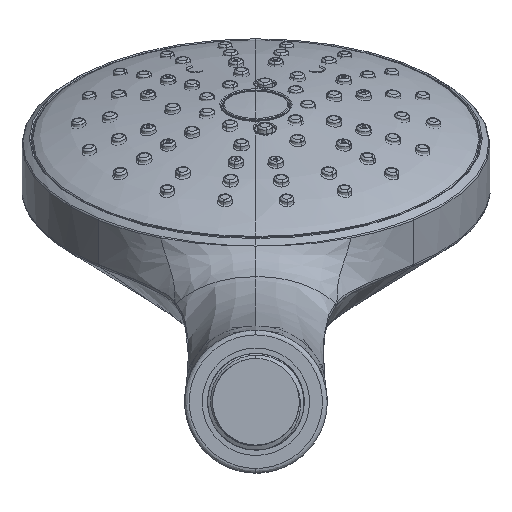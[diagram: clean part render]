
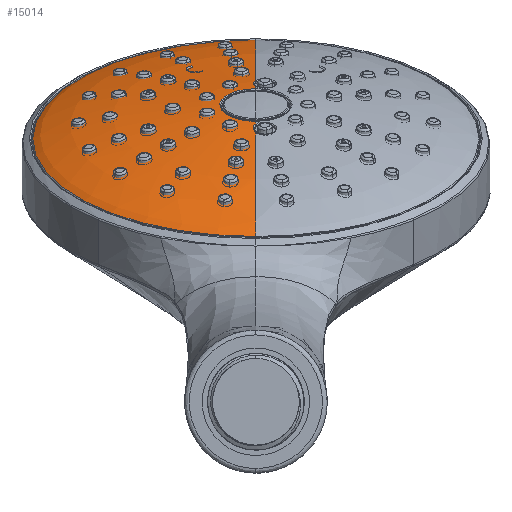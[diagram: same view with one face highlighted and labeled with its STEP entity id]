
A CAD part, front view. The second image highlights one B-rep face of the part: STEP entity #15014.
In plain terms, the highlighted face is a revolution surface.
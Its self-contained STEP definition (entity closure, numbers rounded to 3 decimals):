
#6871=CARTESIAN_POINT('',(0.,171.03,56.138));
#6872=DIRECTION('',(0.,0.438,-0.899));
#6873=DIRECTION('',(0.,-0.899,-0.438));
#6874=AXIS2_PLACEMENT_3D('',#6871,#6872,#6873);
#6876=CARTESIAN_POINT('',(0.,171.03,56.138));
#6877=DIRECTION('',(0.,0.438,-0.899));
#6878=DIRECTION('',(-0.006,-0.899,-0.438));
#6879=AXIS2_PLACEMENT_3D('',#6876,#6877,#6878);
#6881=CARTESIAN_POINT('',(0.,167.496,63.383));
#6882=DIRECTION('',(0.,-0.438,0.899));
#6883=DIRECTION('',(0.,0.899,0.438));
#6884=AXIS2_PLACEMENT_3D('',#6881,#6882,#6883);
#6886=CARTESIAN_POINT('',(0.,167.496,63.383));
#6887=DIRECTION('',(0.,-0.438,0.899));
#6888=DIRECTION('',(-0.007,0.899,0.438));
#6889=AXIS2_PLACEMENT_3D('',#6886,#6887,#6888);
#6891=CARTESIAN_POINT('',(0.,160.564,
60.002));
#6892=CARTESIAN_POINT('',(0.,160.109,
59.741));
#6893=CARTESIAN_POINT('',(0.,159.65,
59.476));
#6894=CARTESIAN_POINT('',(0.,159.188,
59.206));
#6896=CARTESIAN_POINT('',(0.,159.188,
59.206));
#6897=CARTESIAN_POINT('',(-0.026,159.161,
59.19));
#6898=CARTESIAN_POINT('',(-0.077,159.106,
59.157));
#6899=CARTESIAN_POINT('',(-0.148,159.02,
59.107));
#6900=CARTESIAN_POINT('',(-0.192,158.961,
59.072));
#6901=CARTESIAN_POINT('',(-0.214,158.931,
59.054));
#6903=CARTESIAN_POINT('',(-0.214,158.931,
59.054));
#6904=CARTESIAN_POINT('',(-0.306,158.797,
58.975));
#6905=CARTESIAN_POINT('',(-0.461,158.52,
58.812));
#6906=CARTESIAN_POINT('',(-0.583,158.065,
58.541));
#6907=CARTESIAN_POINT('',(-0.591,157.594,
58.26));
#6908=CARTESIAN_POINT('',(-0.476,157.121,
57.976));
#6909=CARTESIAN_POINT('',(-0.317,156.823,
57.797));
#6910=CARTESIAN_POINT('',(-0.214,156.678,
57.709));
#6912=CARTESIAN_POINT('',(0.,156.423,
57.554));
#6913=CARTESIAN_POINT('',(0.,144.103,
50.05));
#6914=CARTESIAN_POINT('',(0.,130.616,
39.938));
#6915=CARTESIAN_POINT('',(0.,128.246,
35.271));
#6982=CARTESIAN_POINT('',(0.,174.429,
66.764));
#6983=CARTESIAN_POINT('',(0.,174.914,
66.962));
#6984=CARTESIAN_POINT('',(0.,175.406,
67.16));
#6985=CARTESIAN_POINT('',(0.,175.903,
67.358));
#7010=CARTESIAN_POINT('',(0.,178.907,
68.52));
#7011=CARTESIAN_POINT('',(0.,192.406,
73.609));
#7012=CARTESIAN_POINT('',(0.,208.677,
78.011));
#7013=CARTESIAN_POINT('',(0.,213.814,
77.005));
#13183=CARTESIAN_POINT('',(0.,156.423,
57.554));
#13184=CARTESIAN_POINT('',(-0.026,156.45,
57.57));
#13185=CARTESIAN_POINT('',(-0.077,156.505,
57.603));
#13186=CARTESIAN_POINT('',(-0.148,156.59,
57.655));
#13187=CARTESIAN_POINT('',(-0.192,156.648,
57.691));
#13188=CARTESIAN_POINT('',(-0.214,156.678,
57.709));
#13439=CARTESIAN_POINT('',(-0.214,178.628,
68.414));
#13440=CARTESIAN_POINT('',(-0.192,178.66,
68.427));
#13441=CARTESIAN_POINT('',(-0.148,178.725,
68.451));
#13442=CARTESIAN_POINT('',(-0.077,178.818,
68.486));
#13443=CARTESIAN_POINT('',(-0.026,178.878,
68.509));
#13444=CARTESIAN_POINT('',(0.,178.907,
68.52));
#13469=CARTESIAN_POINT('',(-0.214,176.181,
67.468));
#13470=CARTESIAN_POINT('',(-0.334,176.363,67.54));
#13471=CARTESIAN_POINT('',(-0.519,176.76,
67.695));
#13472=CARTESIAN_POINT('',(-0.614,177.404,
67.945));
#13473=CARTESIAN_POINT('',(-0.519,178.047,
68.193));
#13474=CARTESIAN_POINT('',(-0.333,178.445,
68.345));
#13475=CARTESIAN_POINT('',(-0.214,178.628,
68.414));
#13491=CARTESIAN_POINT('',(0.,175.903,
67.358));
#13492=CARTESIAN_POINT('',(-0.026,175.932,
67.369));
#13493=CARTESIAN_POINT('',(-0.077,175.992,
67.393));
#13494=CARTESIAN_POINT('',(-0.148,176.084,
67.43));
#13495=CARTESIAN_POINT('',(-0.192,176.148,
67.455));
#13496=CARTESIAN_POINT('',(-0.214,176.181,
67.468));
#13772=CARTESIAN_POINT('',(-0.296,128.247,
35.272));
#13773=CARTESIAN_POINT('',(0.,213.814,
77.005));
#13774=VERTEX_POINT('',#13772);
#13775=VERTEX_POINT('',#13773);
#13776=CARTESIAN_POINT('',(0.,128.246,
35.271));
#13777=VERTEX_POINT('',#13776);
#13778=VERTEX_POINT('',#7010);
#13779=VERTEX_POINT('',#13439);
#13780=VERTEX_POINT('',#13469);
#13781=VERTEX_POINT('',#13491);
#13782=VERTEX_POINT('',#6982);
#13783=CARTESIAN_POINT('',(-0.056,174.429,
66.764));
#13784=CARTESIAN_POINT('',(0.,160.564,
60.002));
#13785=VERTEX_POINT('',#13783);
#13786=VERTEX_POINT('',#13784);
#13787=VERTEX_POINT('',#6894);
#13788=VERTEX_POINT('',#6901);
#13789=VERTEX_POINT('',#6910);
#13790=VERTEX_POINT('',#13183);
#14974=CARTESIAN_POINT('',(0.,128.104,34.968));
#14975=CARTESIAN_POINT('',(0.,128.146,35.066));
#14976=CARTESIAN_POINT('',(0.,130.578,40.275));
#14977=CARTESIAN_POINT('',(0.,147.609,52.634));
#14978=CARTESIAN_POINT('',(0.,160.918,60.203));
#14980=CARTESIAN_POINT('',(0.,171.285,55.615));
#14981=DIRECTION('',(0.,-0.438,0.899));
#14982=AXIS1_PLACEMENT('',#14980,#14981);
#14983=SURFACE_OF_REVOLUTION('',#14979,#14982);
#14985=ORIENTED_EDGE('',*,*,#14984,.T.);
#14987=ORIENTED_EDGE('',*,*,#14986,.T.);
#14989=ORIENTED_EDGE('',*,*,#14988,.F.);
#14991=ORIENTED_EDGE('',*,*,#14990,.F.);
#14993=ORIENTED_EDGE('',*,*,#14992,.F.);
#14995=ORIENTED_EDGE('',*,*,#14994,.F.);
#14997=ORIENTED_EDGE('',*,*,#14996,.F.);
#14999=ORIENTED_EDGE('',*,*,#14998,.T.);
#15001=ORIENTED_EDGE('',*,*,#15000,.T.);
#15003=ORIENTED_EDGE('',*,*,#15002,.T.);
#15005=ORIENTED_EDGE('',*,*,#15004,.T.);
#15007=ORIENTED_EDGE('',*,*,#15006,.T.);
#15009=ORIENTED_EDGE('',*,*,#15008,.F.);
#15011=ORIENTED_EDGE('',*,*,#15010,.T.);
#15012=EDGE_LOOP('',(#14985,#14987,#14989,#14991,#14993,#14995,#14997,#14999,
#15001,#15003,#15005,#15007,#15009,#15011));
#15013=FACE_OUTER_BOUND('',#15012,.F.);
#15014=ADVANCED_FACE('',(#15013),#14983,.T.);
#6875=CIRCLE('',#6874,47.601);
#6880=CIRCLE('',#6879,47.601);
#6885=CIRCLE('',#6884,7.713);
#6890=CIRCLE('',#6889,7.713);
#6895=B_SPLINE_CURVE_WITH_KNOTS('',3,(#6891,#6892,#6893,#6894),.UNSPECIFIED.,
.F.,.F.,(4,4),(0.,1.),.UNSPECIFIED.);
#6902=B_SPLINE_CURVE_WITH_KNOTS('',3,(#6896,#6897,#6898,#6899,#6900,#6901),
.UNSPECIFIED.,.F.,.F.,(4,1,1,4),(0.,0.333,0.667,1.),
.UNSPECIFIED.);
#6911=B_SPLINE_CURVE_WITH_KNOTS('',3,(#6903,#6904,#6905,#6906,#6907,#6908,#6909,
#6910),.UNSPECIFIED.,.F.,.F.,(4,1,1,1,1,4),(0.,0.2,0.4,0.6,0.8,1.),
.UNSPECIFIED.);
#6916=B_SPLINE_CURVE_WITH_KNOTS('',3,(#6912,#6913,#6914,#6915),.UNSPECIFIED.,
.F.,.F.,(4,4),(0.,1.),.UNSPECIFIED.);
#6986=B_SPLINE_CURVE_WITH_KNOTS('',3,(#6982,#6983,#6984,#6985),.UNSPECIFIED.,
.F.,.F.,(4,4),(0.,1.),.UNSPECIFIED.);
#7014=B_SPLINE_CURVE_WITH_KNOTS('',3,(#7010,#7011,#7012,#7013),.UNSPECIFIED.,
.F.,.F.,(4,4),(0.,1.),.UNSPECIFIED.);
#13189=B_SPLINE_CURVE_WITH_KNOTS('',3,(#13183,#13184,#13185,#13186,#13187,
#13188),.UNSPECIFIED.,.F.,.F.,(4,1,1,4),(0.,0.333,
0.667,1.),.UNSPECIFIED.);
#13445=B_SPLINE_CURVE_WITH_KNOTS('',3,(#13439,#13440,#13441,#13442,#13443,
#13444),.UNSPECIFIED.,.F.,.F.,(4,1,1,4),(0.,0.333,
0.667,1.),.UNSPECIFIED.);
#13476=B_SPLINE_CURVE_WITH_KNOTS('',3,(#13469,#13470,#13471,#13472,#13473,
#13474,#13475),.UNSPECIFIED.,.F.,.F.,(4,1,1,1,4),(0.,0.25,0.5,0.75,
1.),.UNSPECIFIED.);
#13497=B_SPLINE_CURVE_WITH_KNOTS('',3,(#13491,#13492,#13493,#13494,#13495,
#13496),.UNSPECIFIED.,.F.,.F.,(4,1,1,4),(0.,0.333,
0.667,1.),.UNSPECIFIED.);
#14979=B_SPLINE_CURVE_WITH_KNOTS('',3,(#14974,#14975,#14976,#14977,#14978),
.UNSPECIFIED.,.F.,.F.,(4,1,4),(0.,0.019,1.),.UNSPECIFIED.);
#14984=EDGE_CURVE('',#13777,#13774,#6875,.T.);
#14986=EDGE_CURVE('',#13774,#13775,#6880,.T.);
#14988=EDGE_CURVE('',#13778,#13775,#7014,.T.);
#14990=EDGE_CURVE('',#13779,#13778,#13445,.T.);
#14992=EDGE_CURVE('',#13780,#13779,#13476,.T.);
#14994=EDGE_CURVE('',#13781,#13780,#13497,.T.);
#14996=EDGE_CURVE('',#13782,#13781,#6986,.T.);
#14998=EDGE_CURVE('',#13782,#13785,#6885,.T.);
#15000=EDGE_CURVE('',#13785,#13786,#6890,.T.);
#15002=EDGE_CURVE('',#13786,#13787,#6895,.T.);
#15004=EDGE_CURVE('',#13787,#13788,#6902,.T.);
#15006=EDGE_CURVE('',#13788,#13789,#6911,.T.);
#15008=EDGE_CURVE('',#13790,#13789,#13189,.T.);
#15010=EDGE_CURVE('',#13790,#13777,#6916,.T.);
